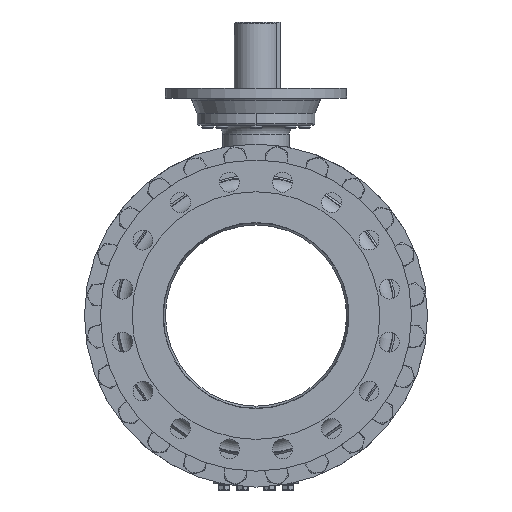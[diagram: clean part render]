
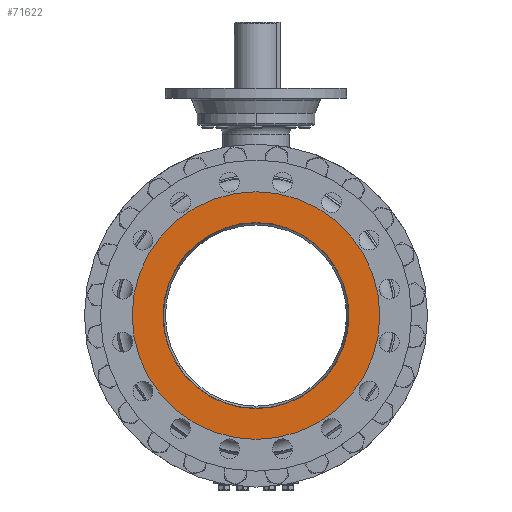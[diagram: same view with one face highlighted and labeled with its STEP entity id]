
A CAD part, left-side view. The second image highlights one B-rep face of the part: STEP entity #71622.
In plain terms, the highlighted planar face has unit normal (-1, 0, 0).
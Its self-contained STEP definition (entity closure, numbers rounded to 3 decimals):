
#5083=CARTESIAN_POINT('',(-324.,0.,0.));
#5084=DIRECTION('',(1.,0.,0.));
#5085=DIRECTION('',(0.,0.,1.));
#5086=AXIS2_PLACEMENT_3D('',#5083,#5084,#5085);
#5088=CARTESIAN_POINT('',(-324.,0.,0.));
#5089=DIRECTION('',(1.,0.,0.));
#5090=DIRECTION('',(0.,0.,-1.));
#5091=AXIS2_PLACEMENT_3D('',#5088,#5089,#5090);
#5093=CARTESIAN_POINT('',(-324.,0.,0.));
#5094=DIRECTION('',(1.,0.,0.));
#5095=DIRECTION('',(0.,0.,1.));
#5096=AXIS2_PLACEMENT_3D('',#5093,#5094,#5095);
#5098=CARTESIAN_POINT('',(-324.,0.,0.));
#5099=DIRECTION('',(-1.,0.,0.));
#5100=DIRECTION('',(0.,0.,1.));
#5101=AXIS2_PLACEMENT_3D('',#5098,#5099,#5100);
#60483=CARTESIAN_POINT('',(-324.,0.,153.95));
#60485=VERTEX_POINT('',#60483);
#60487=CARTESIAN_POINT('',(-324.,0.,-153.95));
#60489=VERTEX_POINT('',#60487);
#60518=CARTESIAN_POINT('',(-324.,0.,205.));
#60519=CARTESIAN_POINT('',(-324.,0.,-205.));
#60520=VERTEX_POINT('',#60518);
#60521=VERTEX_POINT('',#60519);
#71606=CARTESIAN_POINT('',(-324.,0.,0.));
#71607=DIRECTION('',(-1.,0.,0.));
#71608=DIRECTION('',(0.,0.,-1.));
#71609=AXIS2_PLACEMENT_3D('',#71606,#71607,#71608);
#71610=PLANE('',#71609);
#71612=ORIENTED_EDGE('',*,*,#71611,.T.);
#71613=ORIENTED_EDGE('',*,*,#71596,.T.);
#71614=EDGE_LOOP('',(#71612,#71613));
#71615=FACE_OUTER_BOUND('',#71614,.F.);
#71617=ORIENTED_EDGE('',*,*,#71616,.F.);
#71619=ORIENTED_EDGE('',*,*,#71618,.T.);
#71620=EDGE_LOOP('',(#71617,#71619));
#71621=FACE_BOUND('',#71620,.F.);
#71622=ADVANCED_FACE('',(#71615,#71621),#71610,.T.);
#5087=CIRCLE('',#5086,205.);
#5092=CIRCLE('',#5091,205.);
#5097=CIRCLE('',#5096,153.95);
#5102=CIRCLE('',#5101,153.95);
#71596=EDGE_CURVE('',#60521,#60520,#5092,.T.);
#71611=EDGE_CURVE('',#60520,#60521,#5087,.T.);
#71616=EDGE_CURVE('',#60485,#60489,#5097,.T.);
#71618=EDGE_CURVE('',#60485,#60489,#5102,.T.);
